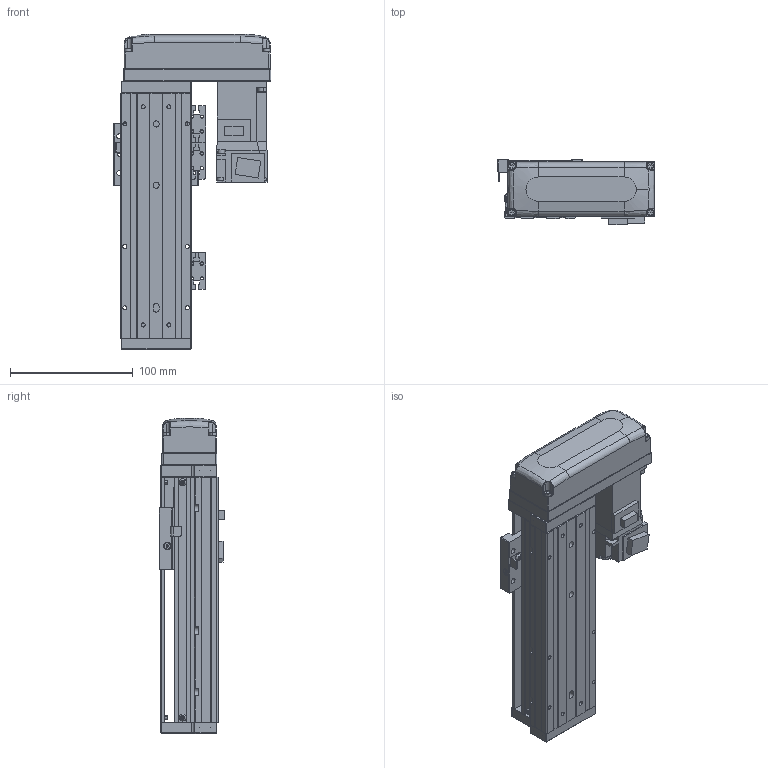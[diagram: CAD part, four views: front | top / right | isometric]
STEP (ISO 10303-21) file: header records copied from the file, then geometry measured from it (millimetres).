
FILE_DESCRIPTION (( 'STEP AP203' ), '1' );
FILE_NAME ('KTHA50-100-BL-M10-C4L.step', '2022-03-19T07:05:30', ( '微软用户' ), ( '微软中国' ), 'SwSTEP 2.0', 'SolidWorks 2020', '' );
FILE_SCHEMA (( 'CONFIG_CONTROL_DESIGN' ));
Length unit declared in the file: millimetre
Products named in the file (18): KTHA50-001_200; GBT 70.1-M3℅6; CTHA50-015-2_CTHA60-015-2; KTHA50-002; CTHA60-017; CTHA60-033; KTHA50-004; GBT 70.1-M4×12; GBT 70.1-M3×15; KTHA50-005; CTHA60-016; KTHA50-100-BL-M10-C4L; GB¨uT 70.2-M3¡Á6_M3¡Á6; CTHA60-021; EE_SX911P_R; GBT 70.3-M3℅6; GBT77-2000 M3×3; HG-KR13（三菱）
Assembly tree (53 placements, depth 2):
  KTHA50-100-BL-M10-C4L
    KTHA50-001_200
    KTHA50-002
    KTHA50-004
    KTHA50-005
    GB¨uT 70.2-M3¡Á6_M3¡Á6  x6
    EE_SX911P_R  x3
    GBT77-2000 M3×3  x6
    GBT 70.1-M3℅6  x6
    CTHA60-017  x3
    GBT 70.1-M4×12  x10
    CTHA60-016  x2
    CTHA60-021  x2
    GBT 70.3-M3℅6  x4
    HG-KR13（三菱）
    CTHA50-015-2_CTHA60-015-2
    CTHA60-033
    GBT 70.1-M3×15  x4
Bounding box: 128.4 x 53.3 x 257 mm (x, y, z)
Volume: 712497.8 mm3; surface area: 176719.7 mm2
Topology: 56 solids, 56 shells, 2203 faces, 5183 edges, 3172 vertices
Faces by surface type: plane 1228, cylinder 532, cone 301, torus 100, bspline 26, sphere 16
Entity records: 36297 total; most frequent: CARTESIAN_POINT 6898, DIRECTION 5635, ORIENTED_EDGE 5378, EDGE_CURVE 2689, AXIS2_PLACEMENT_3D 1925, VECTOR 1785, LINE 1785, VERTEX_POINT 1686
